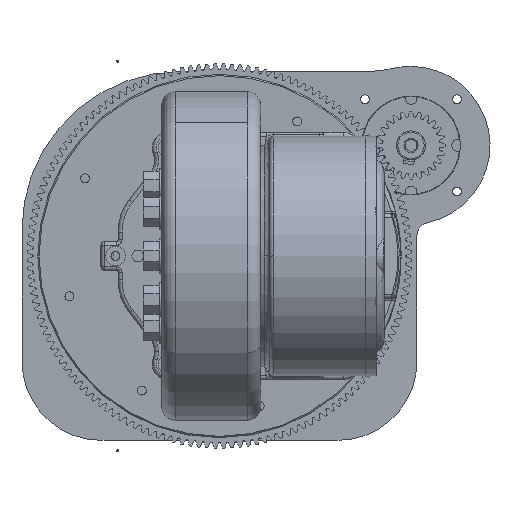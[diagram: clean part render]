
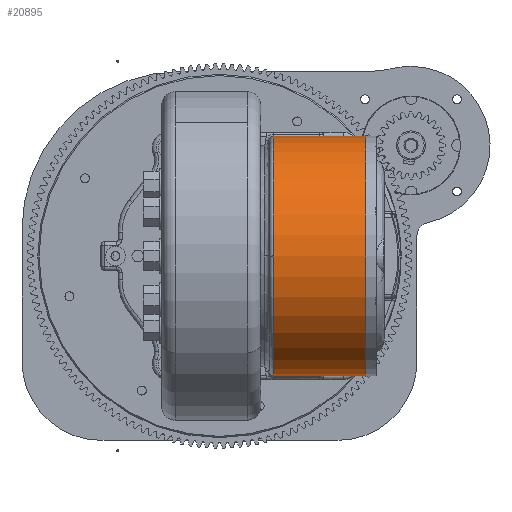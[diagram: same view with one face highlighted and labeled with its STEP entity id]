
A CAD part, front view. The second image highlights one B-rep face of the part: STEP entity #20895.
In plain terms, the highlighted cylindrical face has radius 91 mm (diameter 182 mm), a partial arc.
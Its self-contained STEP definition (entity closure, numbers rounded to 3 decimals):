
#1522 = EDGE_CURVE ( 'NONE', #79715, #83954, #83860, .T. ) ;
#5322 = DIRECTION ( 'NONE',  ( 0., 0., -1. ) ) ;
#9737 = CARTESIAN_POINT ( 'NONE',  ( 40.896, -320.5, 0. ) ) ;
#10191 = ORIENTED_EDGE ( 'NONE', *, *, #14012, .T. ) ;
#11654 = LINE ( 'NONE', #78122, #44062 ) ;
#12239 = AXIS2_PLACEMENT_3D ( 'NONE', #40671, #27733, #86119 ) ;
#13093 = ORIENTED_EDGE ( 'NONE', *, *, #34937, .T. ) ;
#14012 = EDGE_CURVE ( 'NONE', #82634, #82528, #75270, .T. ) ;
#15945 = DIRECTION ( 'NONE',  ( 1., 0., 0. ) ) ;
#16916 = CARTESIAN_POINT ( 'NONE',  ( 76.25, -229.5, -91. ) ) ;
#18183 = AXIS2_PLACEMENT_3D ( 'NONE', #75569, #82299, #52170 ) ;
#18719 = CARTESIAN_POINT ( 'NONE',  ( 40.896, -229.5, 0. ) ) ;
#19185 = CARTESIAN_POINT ( 'NONE',  ( 111.25, -229.5, 91. ) ) ;
#20895 = ADVANCED_FACE ( 'NONE', ( #47079 ), #83881, .T. ) ;
#21689 = ORIENTED_EDGE ( 'NONE', *, *, #81096, .T. ) ;
#24541 = VECTOR ( 'NONE', #15945, 1000. ) ;
#27382 = CARTESIAN_POINT ( 'NONE',  ( 40.188, -229.5, -91. ) ) ;
#27733 = DIRECTION ( 'NONE',  ( -1., 0., 0. ) ) ;
#31756 = CARTESIAN_POINT ( 'NONE',  ( 40.896, -229.5, -91. ) ) ;
#33696 = CIRCLE ( 'NONE', #12239, 91. ) ;
#34155 = AXIS2_PLACEMENT_3D ( 'NONE', #18719, #64177, #62316 ) ;
#34350 = EDGE_CURVE ( 'NONE', #82528, #72086, #33696, .T. ) ;
#34669 = EDGE_CURVE ( 'NONE', #44716, #72086, #38502, .T. ) ;
#34937 = EDGE_CURVE ( 'NONE', #83954, #82634, #47044, .T. ) ;
#36024 = CARTESIAN_POINT ( 'NONE',  ( 40.896, -229.5, 0. ) ) ;
#36173 = AXIS2_PLACEMENT_3D ( 'NONE', #36024, #48961, #5322 ) ;
#38029 = CARTESIAN_POINT ( 'NONE',  ( 40.896, -229.5, 91. ) ) ;
#38502 = LINE ( 'NONE', #38029, #24541 ) ;
#39880 = DIRECTION ( 'NONE',  ( 1., 0., 0. ) ) ;
#40646 = CARTESIAN_POINT ( 'NONE',  ( 40.896, -229.5, 91. ) ) ;
#40671 = CARTESIAN_POINT ( 'NONE',  ( 111.25, -229.5, 0. ) ) ;
#41787 = CARTESIAN_POINT ( 'NONE',  ( 40.896, -229.5, -91. ) ) ;
#42215 = DIRECTION ( 'NONE',  ( 1., 0., 0. ) ) ;
#44062 = VECTOR ( 'NONE', #86311, 1000. ) ;
#44716 = VERTEX_POINT ( 'NONE', #80125 ) ;
#47044 = LINE ( 'NONE', #27382, #56716 ) ;
#47079 = FACE_OUTER_BOUND ( 'NONE', #74257, .T. ) ;
#48961 = DIRECTION ( 'NONE',  ( 1., 0., 0. ) ) ;
#52170 = DIRECTION ( 'NONE',  ( 0., 0., -1. ) ) ;
#52908 = ORIENTED_EDGE ( 'NONE', *, *, #34350, .T. ) ;
#56716 = VECTOR ( 'NONE', #42215, 1000. ) ;
#62316 = DIRECTION ( 'NONE',  ( 0., 0., -1. ) ) ;
#64177 = DIRECTION ( 'NONE',  ( 1., 0., 0. ) ) ;
#72086 = VERTEX_POINT ( 'NONE', #19185 ) ;
#74257 = EDGE_LOOP ( 'NONE', ( #91665, #81942, #21689, #80300, #13093, #10191, #52908 ) ) ;
#75270 = LINE ( 'NONE', #31756, #85012 ) ;
#75421 = CIRCLE ( 'NONE', #34155, 91. ) ;
#75569 = CARTESIAN_POINT ( 'NONE',  ( 40.896, -229.5, 0. ) ) ;
#78122 = CARTESIAN_POINT ( 'NONE',  ( 40.896, -229.5, 91. ) ) ;
#79715 = VERTEX_POINT ( 'NONE', #9737 ) ;
#80125 = CARTESIAN_POINT ( 'NONE',  ( 76.25, -229.5, 91. ) ) ;
#80300 = ORIENTED_EDGE ( 'NONE', *, *, #1522, .T. ) ;
#81096 = EDGE_CURVE ( 'NONE', #92236, #79715, #75421, .T. ) ;
#81942 = ORIENTED_EDGE ( 'NONE', *, *, #87541, .T. ) ;
#82299 = DIRECTION ( 'NONE',  ( 1., 0., 0. ) ) ;
#82528 = VERTEX_POINT ( 'NONE', #86339 ) ;
#82634 = VERTEX_POINT ( 'NONE', #16916 ) ;
#83860 = CIRCLE ( 'NONE', #18183, 91. ) ;
#83881 = CYLINDRICAL_SURFACE ( 'NONE', #36173, 91. ) ;
#83954 = VERTEX_POINT ( 'NONE', #41787 ) ;
#85012 = VECTOR ( 'NONE', #39880, 1000. ) ;
#86119 = DIRECTION ( 'NONE',  ( 0., 0., -1. ) ) ;
#86311 = DIRECTION ( 'NONE',  ( -1., 0., 0. ) ) ;
#86339 = CARTESIAN_POINT ( 'NONE',  ( 111.25, -229.5, -91. ) ) ;
#87541 = EDGE_CURVE ( 'NONE', #44716, #92236, #11654, .T. ) ;
#91665 = ORIENTED_EDGE ( 'NONE', *, *, #34669, .F. ) ;
#92236 = VERTEX_POINT ( 'NONE', #40646 ) ;
